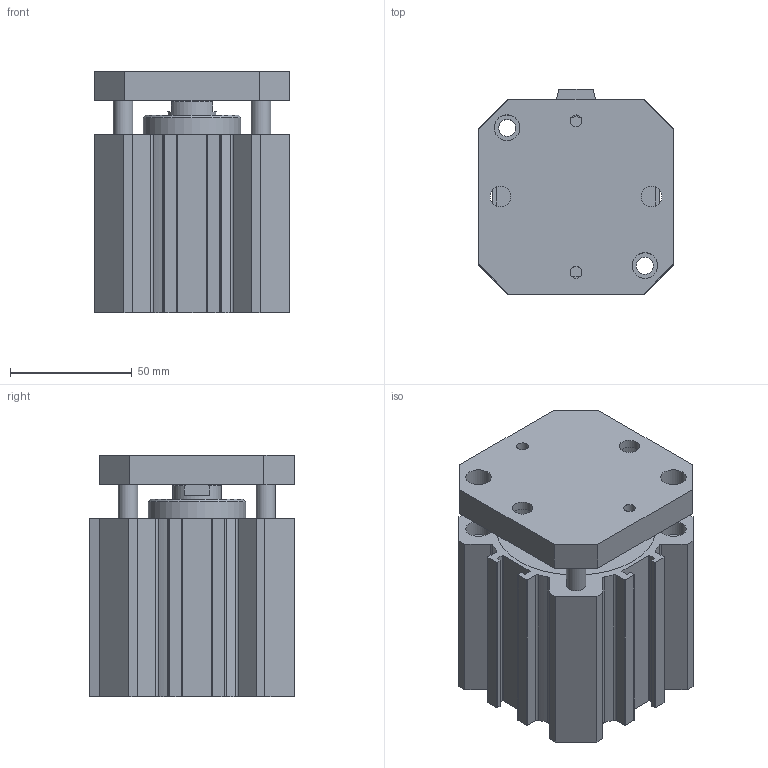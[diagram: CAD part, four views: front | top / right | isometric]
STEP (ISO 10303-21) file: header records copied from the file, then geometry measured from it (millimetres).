
FILE_DESCRIPTION(/* description */ ('TUBO PROFILATO COMPATTI Ø40'),/* implementation_level */ '2;1');
FILE_NAME(/* name */ 'I:\Area Tecnica\Disegni\VARIE-3D\Componenti\1500\Ø63\15##_63_####_#\1501_63_0035_AR.stp',/* time_stamp */ '2016-08-24T13:52:18+02:00',/* author */ ('Maniean1'),/* organization */ ('Pneumax S.p.A.'),/* preprocessor_version */ 'ST-DEVELOPER v15.2',/* originating_system */ 'Autodesk Inventor 2014',/* authorisation */ '');
FILE_SCHEMA (('AUTOMOTIVE_DESIGN { 1 0 10303 214 3 1 1 }'));
Length unit declared in the file: millimetre
Products named in the file (3): C_1501_63_0035_AR; S_1501_63_0035_AR; 1501_63_0035_AR
Bounding box: 80 x 84 x 99 mm (x, y, z)
Volume: 356206.9 mm3; surface area: 100269.1 mm2
Topology: 2 solids, 2 shells, 185 faces, 481 edges, 322 vertices
Faces by surface type: plane 94, cylinder 86, cone 5
Full cylindrical faces by diameter (mm): 4.917 x2, 7 x4, 8 x4, 8.5 x2, 8.566 x2, 10.5 x8, 13.5 x2, 20 x2, 40 x2, 63 x2, 65.5 x2
Entity records: 5739 total; most frequent: DIRECTION 994, CARTESIAN_POINT 950, ORIENTED_EDGE 876, EDGE_CURVE 438, AXIS2_PLACEMENT_3D 370, VERTEX_POINT 314, EDGE_LOOP 262, LINE 254
